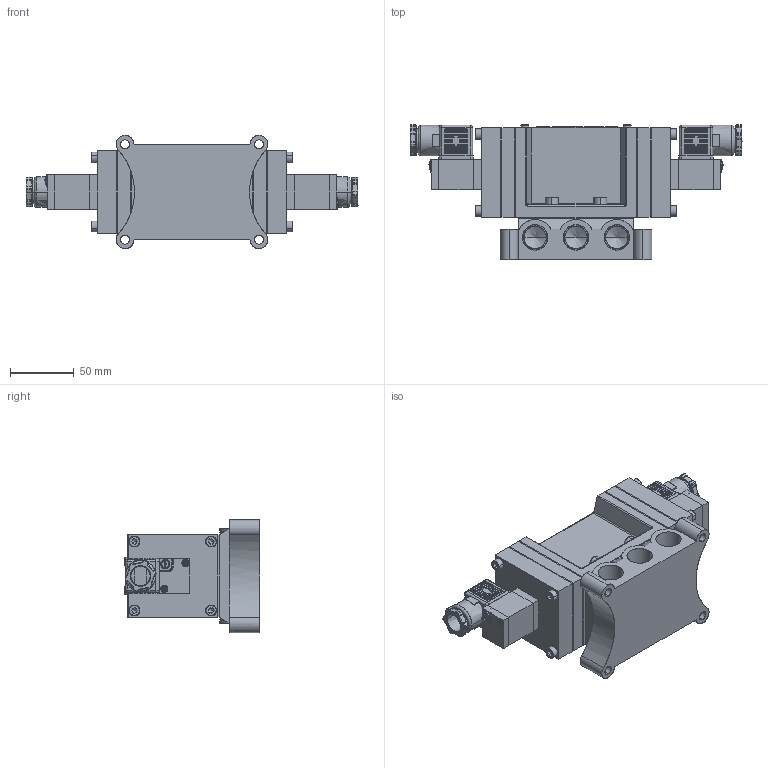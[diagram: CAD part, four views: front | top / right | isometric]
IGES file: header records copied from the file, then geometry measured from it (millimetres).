
Start section: SolidWorks IGES file using analytic representation for surfaces
Global section: file name: D:\Custom\3D繪製\PM\PM10\PMD3410#-04-#C#.IGS,1; native system: 5HSolidWorks 2014; preprocessor: SolidWorks 2014; author: Chieh_Lu; date: 151213.200715; units: millimetre
Bounding box: 260 x 106.35 x 88.61 mm (x, y, z)
Surface area: 225130.5 mm2 (no closed solid volume)
Topology: 0 solids, 0 shells, 1828 faces, 17146 edges, 16840 vertices
Faces by surface type: revolution 972, bspline 856
